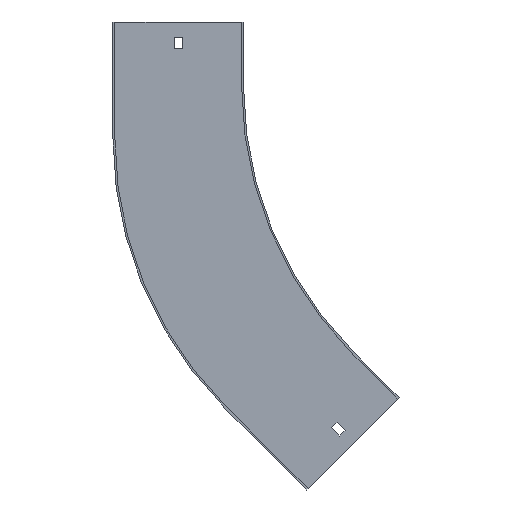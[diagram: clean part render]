
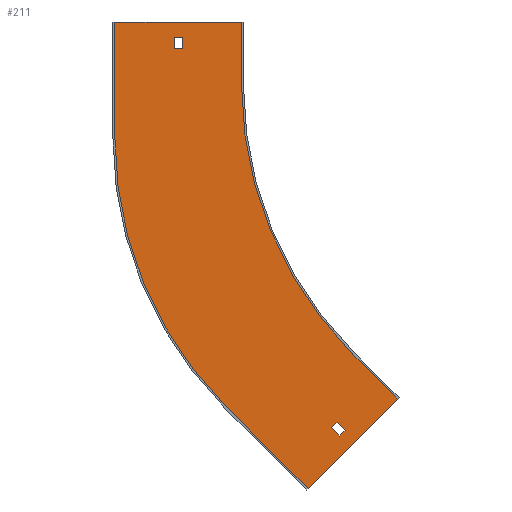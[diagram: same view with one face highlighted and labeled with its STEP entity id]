
A CAD part, front view. The second image highlights one B-rep face of the part: STEP entity #211.
In plain terms, the highlighted planar face has unit normal (0, -1, 0).
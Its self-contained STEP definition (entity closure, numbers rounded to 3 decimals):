
#1 = CARTESIAN_POINT ( 'NONE',  ( -176.777, -1.5, -247.487 ) ) ;
#6 = VERTEX_POINT ( 'NONE', #231 ) ;
#23 = EDGE_LOOP ( 'NONE', ( #288, #758, #495, #111, #335, #301, #773, #122 ) ) ;
#31 = ORIENTED_EDGE ( 'NONE', *, *, #413, .T. ) ;
#33 = VECTOR ( 'NONE', #117, 1000. ) ;
#38 = EDGE_CURVE ( 'NONE', #681, #60, #258, .T. ) ;
#41 = CARTESIAN_POINT ( 'NONE',  ( -400., -1.5, -41.421 ) ) ;
#51 = DIRECTION ( 'NONE',  ( 0., 0., -1. ) ) ;
#59 = EDGE_CURVE ( 'NONE', #60, #834, #265, .T. ) ;
#60 = VERTEX_POINT ( 'NONE', #327 ) ;
#71 = CARTESIAN_POINT ( 'NONE',  ( -400., -1.5, 50. ) ) ;
#86 = LINE ( 'NONE', #632, #382 ) ;
#89 = LINE ( 'NONE', #507, #121 ) ;
#94 = VECTOR ( 'NONE', #405, 1000. ) ;
#100 = EDGE_CURVE ( 'NONE', #134, #237, #804, .T. ) ;
#111 = ORIENTED_EDGE ( 'NONE', *, *, #745, .F. ) ;
#114 = CARTESIAN_POINT ( 'NONE',  ( -353.25, -1.5, 0. ) ) ;
#117 = DIRECTION ( 'NONE',  ( -0.707, 0., 0.707 ) ) ;
#119 = VECTOR ( 'NONE', #537, 1000. ) ;
#120 = ORIENTED_EDGE ( 'NONE', *, *, #763, .F. ) ;
#121 = VECTOR ( 'NONE', #298, 1000. ) ;
#122 = ORIENTED_EDGE ( 'NONE', *, *, #148, .F. ) ;
#134 = VERTEX_POINT ( 'NONE', #406 ) ;
#135 = LINE ( 'NONE', #398, #119 ) ;
#148 = EDGE_CURVE ( 'NONE', #651, #190, #400, .T. ) ;
#150 = DIRECTION ( 'NONE',  ( 0.707, 0., -0.707 ) ) ;
#154 = AXIS2_PLACEMENT_3D ( 'NONE', #783, #779, #378 ) ;
#164 = DIRECTION ( 'NONE',  ( -0.707, 0., -0.707 ) ) ;
#168 = VECTOR ( 'NONE', #675, 1000. ) ;
#172 = LINE ( 'NONE', #856, #740 ) ;
#173 = DIRECTION ( 'NONE',  ( 0., 0., 1. ) ) ;
#178 = CARTESIAN_POINT ( 'NONE',  ( -247.487, -1.5, -318.198 ) ) ;
#180 = ORIENTED_EDGE ( 'NONE', *, *, #761, .T. ) ;
#190 = VERTEX_POINT ( 'NONE', #648 ) ;
#192 = VECTOR ( 'NONE', #150, 1000. ) ;
#195 = DIRECTION ( 'NONE',  ( 0., 1., 0. ) ) ;
#197 = ORIENTED_EDGE ( 'NONE', *, *, #59, .T. ) ;
#200 = AXIS2_PLACEMENT_3D ( 'NONE', #840, #238, #51 ) ;
#208 = EDGE_CURVE ( 'NONE', #190, #469, #848, .T. ) ;
#211 = ADVANCED_FACE ( 'NONE', ( #513, #248, #313 ), #638, .T. ) ;
#230 = VECTOR ( 'NONE', #658, 1000. ) ;
#231 = CARTESIAN_POINT ( 'NONE',  ( -353.25, -1.5, 29. ) ) ;
#237 = VERTEX_POINT ( 'NONE', #372 ) ;
#238 = DIRECTION ( 'NONE',  ( 0., -1., 0. ) ) ;
#239 = CIRCLE ( 'NONE', #617, 300. ) ;
#248 = FACE_OUTER_BOUND ( 'NONE', #23, .T. ) ;
#258 = LINE ( 'NONE', #534, #391 ) ;
#259 = EDGE_CURVE ( 'NONE', #334, #651, #172, .T. ) ;
#262 = CARTESIAN_POINT ( 'NONE',  ( -100., -1.5, -41.421 ) ) ;
#265 = LINE ( 'NONE', #401, #230 ) ;
#266 = CARTESIAN_POINT ( 'NONE',  ( -353.25, -1.5, 38. ) ) ;
#275 = CARTESIAN_POINT ( 'NONE',  ( -224.683, -1.5, -265.695 ) ) ;
#288 = ORIENTED_EDGE ( 'NONE', *, *, #259, .F. ) ;
#298 = DIRECTION ( 'NONE',  ( -0.707, 0., -0.707 ) ) ;
#301 = ORIENTED_EDGE ( 'NONE', *, *, #525, .F. ) ;
#310 = CARTESIAN_POINT ( 'NONE',  ( -245.189, -1.5, -245.189 ) ) ;
#313 = FACE_BOUND ( 'NONE', #529, .T. ) ;
#327 = CARTESIAN_POINT ( 'NONE',  ( -346.75, -1.5, 38. ) ) ;
#334 = VERTEX_POINT ( 'NONE', #71 ) ;
#335 = ORIENTED_EDGE ( 'NONE', *, *, #831, .F. ) ;
#336 = CARTESIAN_POINT ( 'NONE',  ( -300., -1.5, 50. ) ) ;
#356 = VERTEX_POINT ( 'NONE', #739 ) ;
#363 = EDGE_CURVE ( 'NONE', #237, #356, #135, .T. ) ;
#372 = CARTESIAN_POINT ( 'NONE',  ( -222.915, -1.5, -276.656 ) ) ;
#378 = DIRECTION ( 'NONE',  ( 0., 0., -1. ) ) ;
#382 = VECTOR ( 'NONE', #164, 1000. ) ;
#384 = EDGE_CURVE ( 'NONE', #801, #547, #239, .T. ) ;
#391 = VECTOR ( 'NONE', #473, 1000. ) ;
#398 = CARTESIAN_POINT ( 'NONE',  ( 26.87, -1.5, -26.87 ) ) ;
#399 = LINE ( 'NONE', #310, #33 ) ;
#400 = LINE ( 'NONE', #336, #719 ) ;
#401 = CARTESIAN_POINT ( 'NONE',  ( -346.75, -1.5, 0. ) ) ;
#405 = DIRECTION ( 'NONE',  ( -0.707, 0., 0.707 ) ) ;
#406 = CARTESIAN_POINT ( 'NONE',  ( -229.279, -1.5, -270.292 ) ) ;
#407 = ORIENTED_EDGE ( 'NONE', *, *, #38, .T. ) ;
#411 = DIRECTION ( 'NONE',  ( 0., 0., -1. ) ) ;
#413 = EDGE_CURVE ( 'NONE', #834, #6, #792, .T. ) ;
#421 = EDGE_CURVE ( 'NONE', #460, #134, #89, .T. ) ;
#433 = ORIENTED_EDGE ( 'NONE', *, *, #100, .F. ) ;
#460 = VERTEX_POINT ( 'NONE', #275 ) ;
#469 = VERTEX_POINT ( 'NONE', #489 ) ;
#470 = DIRECTION ( 'NONE',  ( -1., 0., 0. ) ) ;
#473 = DIRECTION ( 'NONE',  ( 1., 0., 0. ) ) ;
#485 = CARTESIAN_POINT ( 'NONE',  ( -249.785, -1.5, -249.785 ) ) ;
#489 = CARTESIAN_POINT ( 'NONE',  ( -212.132, -1.5, -212.132 ) ) ;
#495 = ORIENTED_EDGE ( 'NONE', *, *, #384, .F. ) ;
#498 = CARTESIAN_POINT ( 'NONE',  ( -212.132, -1.5, -212.132 ) ) ;
#500 = LINE ( 'NONE', #776, #553 ) ;
#507 = CARTESIAN_POINT ( 'NONE',  ( 20.506, -1.5, -20.506 ) ) ;
#513 = FACE_BOUND ( 'NONE', #535, .T. ) ;
#515 = VECTOR ( 'NONE', #649, 1000. ) ;
#519 = ORIENTED_EDGE ( 'NONE', *, *, #363, .F. ) ;
#525 = EDGE_CURVE ( 'NONE', #469, #777, #808, .T. ) ;
#529 = EDGE_LOOP ( 'NONE', ( #407, #197, #31, #180 ) ) ;
#531 = CARTESIAN_POINT ( 'NONE',  ( -312.132, -1.5, -253.553 ) ) ;
#534 = CARTESIAN_POINT ( 'NONE',  ( 0., -1.5, 38. ) ) ;
#535 = EDGE_LOOP ( 'NONE', ( #120, #519, #433, #655 ) ) ;
#537 = DIRECTION ( 'NONE',  ( 0.707, 0., 0.707 ) ) ;
#547 = VERTEX_POINT ( 'NONE', #41 ) ;
#553 = VECTOR ( 'NONE', #173, 1000. ) ;
#586 = VECTOR ( 'NONE', #470, 1000. ) ;
#593 = CARTESIAN_POINT ( 'NONE',  ( -247.487, -1.5, -318.198 ) ) ;
#604 = DIRECTION ( 'NONE',  ( 0., 0., -1. ) ) ;
#617 = AXIS2_PLACEMENT_3D ( 'NONE', #262, #195, #411 ) ;
#632 = CARTESIAN_POINT ( 'NONE',  ( -175.716, -1.5, -246.427 ) ) ;
#638 = PLANE ( 'NONE',  #154 ) ;
#648 = CARTESIAN_POINT ( 'NONE',  ( -300., -1.5, 0. ) ) ;
#649 = DIRECTION ( 'NONE',  ( 0., 0., 1. ) ) ;
#651 = VERTEX_POINT ( 'NONE', #836 ) ;
#655 = ORIENTED_EDGE ( 'NONE', *, *, #421, .F. ) ;
#658 = DIRECTION ( 'NONE',  ( 0., 0., -1. ) ) ;
#662 = CARTESIAN_POINT ( 'NONE',  ( 0., -1.5, 29. ) ) ;
#664 = CARTESIAN_POINT ( 'NONE',  ( -346.75, -1.5, 29. ) ) ;
#668 = LINE ( 'NONE', #114, #515 ) ;
#672 = EDGE_CURVE ( 'NONE', #547, #334, #500, .T. ) ;
#675 = DIRECTION ( 'NONE',  ( 0.707, 0., -0.707 ) ) ;
#681 = VERTEX_POINT ( 'NONE', #266 ) ;
#712 = VERTEX_POINT ( 'NONE', #178 ) ;
#713 = DIRECTION ( 'NONE',  ( 1., 0., 0. ) ) ;
#719 = VECTOR ( 'NONE', #604, 1000. ) ;
#739 = CARTESIAN_POINT ( 'NONE',  ( -218.319, -1.5, -272.059 ) ) ;
#740 = VECTOR ( 'NONE', #713, 1000. ) ;
#745 = EDGE_CURVE ( 'NONE', #712, #801, #775, .T. ) ;
#758 = ORIENTED_EDGE ( 'NONE', *, *, #672, .F. ) ;
#761 = EDGE_CURVE ( 'NONE', #6, #681, #668, .T. ) ;
#763 = EDGE_CURVE ( 'NONE', #356, #460, #399, .T. ) ;
#773 = ORIENTED_EDGE ( 'NONE', *, *, #208, .F. ) ;
#775 = LINE ( 'NONE', #593, #94 ) ;
#776 = CARTESIAN_POINT ( 'NONE',  ( -400., -1.5, -41.421 ) ) ;
#777 = VERTEX_POINT ( 'NONE', #1 ) ;
#779 = DIRECTION ( 'NONE',  ( 0., -1., 0. ) ) ;
#783 = CARTESIAN_POINT ( 'NONE',  ( 0., -1.5, 0. ) ) ;
#792 = LINE ( 'NONE', #662, #586 ) ;
#801 = VERTEX_POINT ( 'NONE', #531 ) ;
#804 = LINE ( 'NONE', #485, #168 ) ;
#808 = LINE ( 'NONE', #498, #192 ) ;
#831 = EDGE_CURVE ( 'NONE', #777, #712, #86, .T. ) ;
#834 = VERTEX_POINT ( 'NONE', #664 ) ;
#836 = CARTESIAN_POINT ( 'NONE',  ( -300., -1.5, 50. ) ) ;
#840 = CARTESIAN_POINT ( 'NONE',  ( 0., -1.5, 0. ) ) ;
#848 = CIRCLE ( 'NONE', #200, 300. ) ;
#856 = CARTESIAN_POINT ( 'NONE',  ( -401.5, -1.5, 50. ) ) ;
